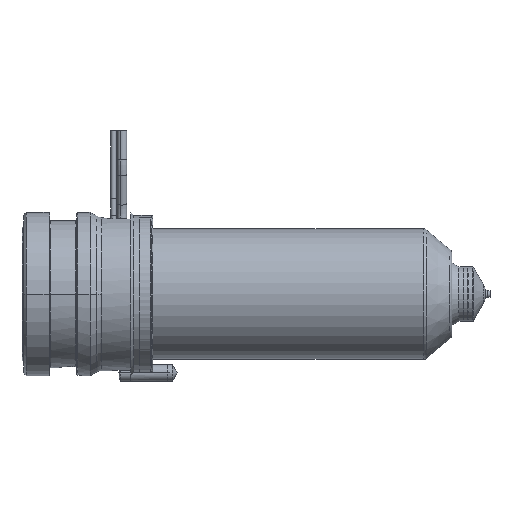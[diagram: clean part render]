
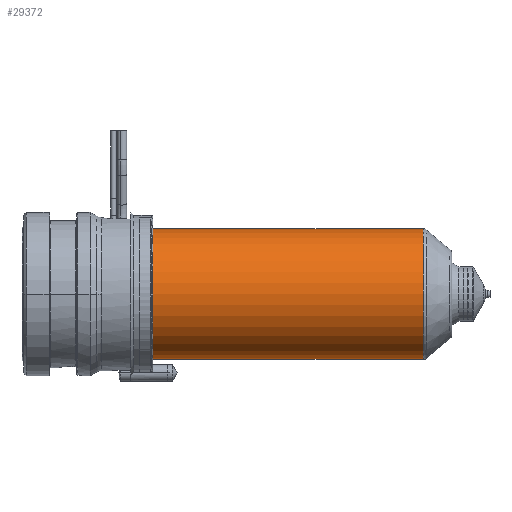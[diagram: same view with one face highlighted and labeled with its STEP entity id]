
A CAD part, left-side view. The second image highlights one B-rep face of the part: STEP entity #29372.
In plain terms, the highlighted cylindrical face has radius 12 mm (diameter 24 mm), a partial arc.
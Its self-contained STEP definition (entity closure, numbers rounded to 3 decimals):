
#28757=CARTESIAN_POINT('',(0.,-73.736,0.));
#28758=DIRECTION('',(0.,-1.,0.));
#28759=DIRECTION('',(0.,0.,1.));
#28760=AXIS2_PLACEMENT_3D('',#28757,#28758,#28759);
#28765=CARTESIAN_POINT('',(0.,-24.,0.));
#28766=DIRECTION('',(0.,1.,0.));
#28767=DIRECTION('',(0.,0.,-1.));
#28768=AXIS2_PLACEMENT_3D('',#28765,#28766,#28767);
#28773=DIRECTION('',(0.,1.,0.));
#28774=VECTOR('',#28773,49.736);
#28775=CARTESIAN_POINT('',(0.,-73.736,12.));
#28776=LINE('',#28775,#28774);
#28788=DIRECTION('',(0.,1.,0.));
#28789=VECTOR('',#28788,49.736);
#28790=CARTESIAN_POINT('',(0.,-73.736,-12.));
#28791=LINE('',#28790,#28789);
#28977=CARTESIAN_POINT('',(0.,-73.736,12.));
#28978=CARTESIAN_POINT('',(0.,-24.,12.));
#28979=VERTEX_POINT('',#28977);
#28980=VERTEX_POINT('',#28978);
#28981=CARTESIAN_POINT('',(0.,-73.736,-12.));
#28982=CARTESIAN_POINT('',(0.,-24.,-12.));
#28983=VERTEX_POINT('',#28981);
#28984=VERTEX_POINT('',#28982);
#29358=CARTESIAN_POINT('',(0.,-16.7,0.));
#29359=DIRECTION('',(0.,-1.,0.));
#29360=DIRECTION('',(0.,0.,1.));
#29361=AXIS2_PLACEMENT_3D('',#29358,#29359,#29360);
#29362=CYLINDRICAL_SURFACE('',#29361,12.);
#29364=ORIENTED_EDGE('',*,*,#29363,.F.);
#29365=ORIENTED_EDGE('',*,*,#29353,.T.);
#29367=ORIENTED_EDGE('',*,*,#29366,.T.);
#29369=ORIENTED_EDGE('',*,*,#29368,.T.);
#29370=EDGE_LOOP('',(#29364,#29365,#29367,#29369));
#29371=FACE_OUTER_BOUND('',#29370,.F.);
#29372=ADVANCED_FACE('',(#29371),#29362,.T.);
#28761=CIRCLE('',#28760,12.);
#28769=CIRCLE('',#28768,12.);
#29353=EDGE_CURVE('',#28979,#28983,#28761,.T.);
#29363=EDGE_CURVE('',#28979,#28980,#28776,.T.);
#29366=EDGE_CURVE('',#28983,#28984,#28791,.T.);
#29368=EDGE_CURVE('',#28984,#28980,#28769,.T.);
